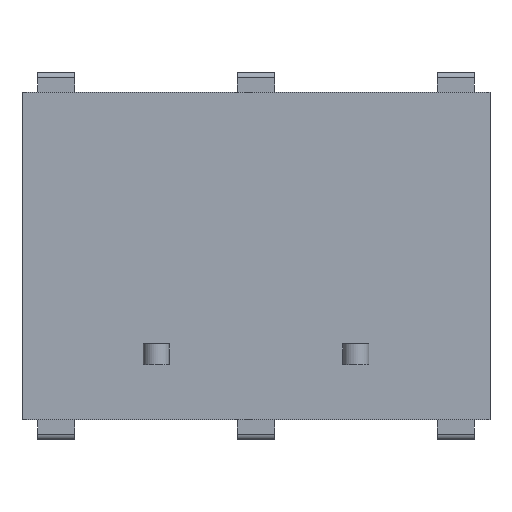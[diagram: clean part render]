
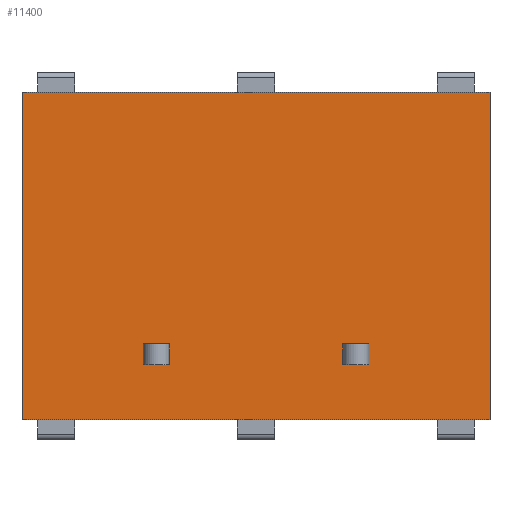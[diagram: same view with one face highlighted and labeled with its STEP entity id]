
A CAD part, front view. The second image highlights one B-rep face of the part: STEP entity #11400.
In plain terms, the highlighted planar face has unit normal (0, -1, 0).
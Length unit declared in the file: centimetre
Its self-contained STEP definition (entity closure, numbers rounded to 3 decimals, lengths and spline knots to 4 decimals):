
#757=VERTEX_POINT('',#14429);
#758=VERTEX_POINT('',#14430);
#765=VERTEX_POINT('',#14446);
#779=VERTEX_POINT('',#14478);
#1358=VERTEX_POINT('',#16783);
#1359=VERTEX_POINT('',#16785);
#1360=VERTEX_POINT('',#16800);
#1361=VERTEX_POINT('',#16801);
#1364=VERTEX_POINT('',#16809);
#1381=VERTEX_POINT('',#16850);
#1716=VERTEX_POINT('',#18359);
#1717=VERTEX_POINT('',#18361);
#1866=VECTOR('',#12137,1.);
#1874=VECTOR('',#12146,1.);
#1888=VECTOR('',#12166,1.);
#1891=VECTOR('',#12174,1.);
#2552=VECTOR('',#13260,1.);
#2560=VECTOR('',#13274,1.);
#2563=VECTOR('',#13280,1.);
#2582=VECTOR('',#13307,1.);
#2584=VECTOR('',#13310,1.);
#2987=VECTOR('',#13864,1.);
#3017=VECTOR('',#13918,1.);
#3018=VECTOR('',#13920,1.);
#3154=LINE('',#14428,#1866);
#3162=LINE('',#14445,#1874);
#3176=LINE('',#14477,#1888);
#3179=LINE('',#14485,#1891);
#3840=LINE('',#16784,#2552);
#3848=LINE('',#16799,#2560);
#3851=LINE('',#16808,#2563);
#3870=LINE('',#16849,#2582);
#3872=LINE('',#16853,#2584);
#4275=LINE('',#18360,#2987);
#4305=LINE('',#18433,#3017);
#4306=LINE('',#18435,#3018);
#4517=EDGE_CURVE('',#757,#758,#3154,.T.);
#4525=EDGE_CURVE('',#765,#757,#3162,.T.);
#4540=EDGE_CURVE('',#758,#779,#3176,.T.);
#4544=EDGE_CURVE('',#779,#765,#3179,.T.);
#5412=EDGE_CURVE('',#1359,#1358,#3840,.T.);
#5420=EDGE_CURVE('',#1360,#1361,#3848,.T.);
#5424=EDGE_CURVE('',#1361,#1364,#3851,.T.);
#5444=EDGE_CURVE('',#1364,#1381,#3870,.T.);
#5446=EDGE_CURVE('',#1381,#1360,#3872,.T.);
#5957=EDGE_CURVE('',#1717,#1716,#4275,.T.);
#5994=EDGE_CURVE('',#1717,#1358,#4305,.T.);
#5995=EDGE_CURVE('',#1716,#1359,#4306,.T.);
#9304=ORIENTED_EDGE('',*,*,#4525,.T.);
#9305=ORIENTED_EDGE('',*,*,#4517,.T.);
#9306=ORIENTED_EDGE('',*,*,#4540,.T.);
#9307=ORIENTED_EDGE('',*,*,#4544,.T.);
#9308=ORIENTED_EDGE('',*,*,#5444,.F.);
#9309=ORIENTED_EDGE('',*,*,#5424,.F.);
#9310=ORIENTED_EDGE('',*,*,#5420,.F.);
#9311=ORIENTED_EDGE('',*,*,#5446,.F.);
#9312=ORIENTED_EDGE('',*,*,#5994,.F.);
#9313=ORIENTED_EDGE('',*,*,#5957,.T.);
#9314=ORIENTED_EDGE('',*,*,#5995,.T.);
#9315=ORIENTED_EDGE('',*,*,#5412,.T.);
#10082=EDGE_LOOP('',(#9304,#9305,#9306,#9307));
#10083=EDGE_LOOP('',(#9308,#9309,#9310,#9311));
#10084=EDGE_LOOP('',(#9312,#9313,#9314,#9315));
#10768=FACE_BOUND('',#10082,.T.);
#10769=FACE_BOUND('',#10083,.T.);
#10770=FACE_BOUND('',#10084,.T.);
#11400=ADVANCED_FACE('',(#10768,#10769,#10770),#11847,.T.);
#11847=PLANE('',#19119);
#12137=DIRECTION('',(0.,0.,-1.));
#12146=DIRECTION('',(1.,0.,0.));
#12166=DIRECTION('',(-1.,0.,0.));
#12174=DIRECTION('',(0.,0.,1.));
#13260=DIRECTION('',(0.,0.,1.));
#13274=DIRECTION('',(1.,0.,0.));
#13280=DIRECTION('',(0.,0.,1.));
#13307=DIRECTION('',(-1.,0.,0.));
#13310=DIRECTION('',(0.,0.,-1.));
#13864=DIRECTION('',(0.,0.,-1.));
#13918=DIRECTION('',(1.,0.,0.));
#13919=DIRECTION('',(0.,-1.,0.));
#13920=DIRECTION('',(1.,0.,0.));
#14428=CARTESIAN_POINT('',(-1.164,0.,0.1875));
#14429=CARTESIAN_POINT('',(-1.164,0.,0.415));
#14430=CARTESIAN_POINT('',(-1.164,0.,0.335));
#14445=CARTESIAN_POINT('',(-1.369,0.,0.415));
#14446=CARTESIAN_POINT('',(-1.264,0.,0.415));
#14477=CARTESIAN_POINT('',(-1.369,0.,0.335));
#14478=CARTESIAN_POINT('',(-1.264,0.,0.335));
#14485=CARTESIAN_POINT('',(-1.264,0.,0.1875));
#16783=CARTESIAN_POINT('',(0.06,0.,0.625));
#16784=CARTESIAN_POINT('',(0.06,0.,-0.625));
#16785=CARTESIAN_POINT('',(0.06,0.,-0.625));
#16799=CARTESIAN_POINT('',(-0.297,0.,0.335));
#16800=CARTESIAN_POINT('',(-0.502,0.,0.335));
#16801=CARTESIAN_POINT('',(-0.402,0.,0.335));
#16808=CARTESIAN_POINT('',(-0.402,0.,0.1875));
#16809=CARTESIAN_POINT('',(-0.402,0.,0.415));
#16849=CARTESIAN_POINT('',(-0.297,0.,0.415));
#16850=CARTESIAN_POINT('',(-0.502,0.,0.415));
#16853=CARTESIAN_POINT('',(-0.502,0.,0.1875));
#18359=CARTESIAN_POINT('',(-1.726,0.,-0.625));
#18360=CARTESIAN_POINT('',(-1.726,0.,0.625));
#18361=CARTESIAN_POINT('',(-1.726,0.,0.625));
#18433=CARTESIAN_POINT('',(0.,0.,0.625));
#18434=CARTESIAN_POINT('',(-1.524,0.,0.));
#18435=CARTESIAN_POINT('',(0.,0.,-0.625));
#19119=AXIS2_PLACEMENT_3D('',#18434,#13919,$);
